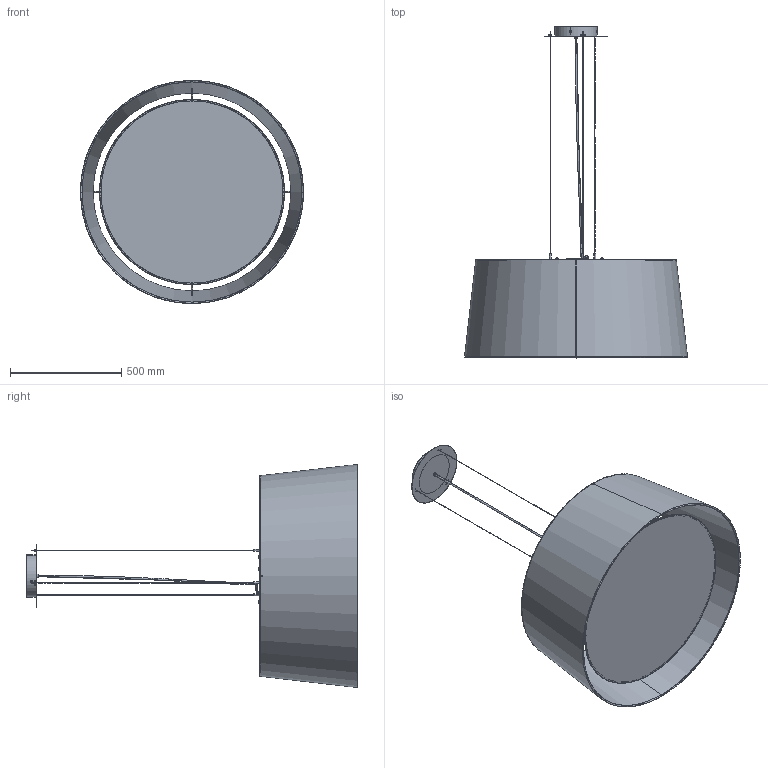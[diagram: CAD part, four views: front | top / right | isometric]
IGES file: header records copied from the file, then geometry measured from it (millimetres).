
Start section: SolidWorks IGES file using analytic representation for surfaces
Global section: file name: C:\SANTACOLE_PDM\Proyectos Catálogo\PROD-P12-025 -- GT1000\6_Técnico comercial\GT1000.IGS; native system: SolidWorks 2019; preprocessor: SolidWorks 2019; author: ana.pascual; date: 200406.104829; units: millimetre
Bounding box: 1001.33 x 1489.74 x 1001.33 mm (x, y, z)
Surface area: 5411415.7 mm2 (no closed solid volume)
Topology: 0 solids, 0 shells, 619 faces, 6944 edges, 6944 vertices
Faces by surface type: bspline 349, revolution 270
